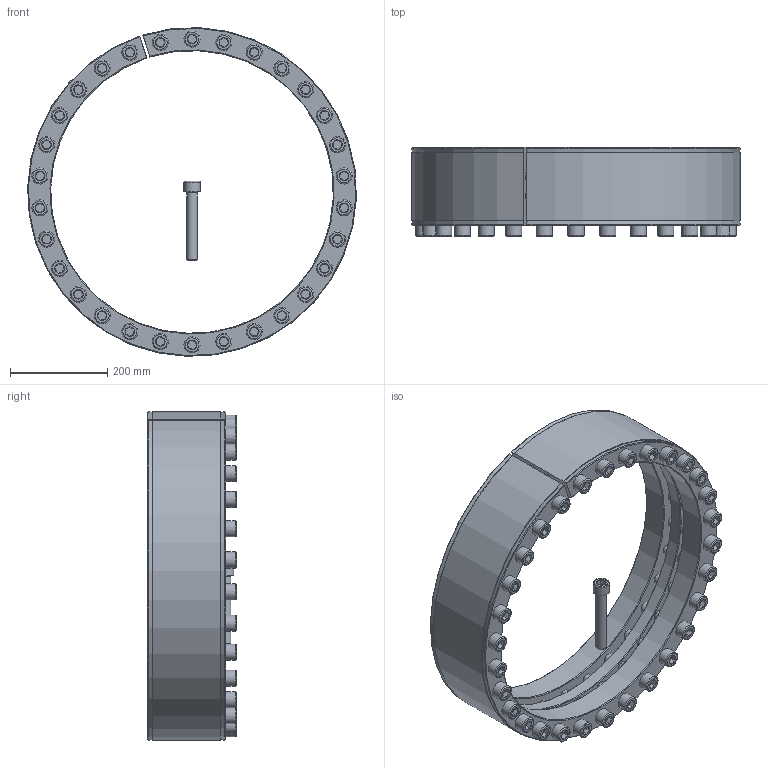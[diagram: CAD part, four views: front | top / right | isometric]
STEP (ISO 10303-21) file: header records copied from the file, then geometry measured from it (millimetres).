
FILE_DESCRIPTION( ( 'Unknown' ), '1' );
FILE_NAME( 'C:/Users/Frank/Eigene Daten/CAD/Solid Edge/KBK Karpstein/KBS Layout Baureihen/KBS 18/KBS 18 - 580 x 675.stp', 'Unknown', ( 'Unknown' ), ( 'Unknown' ), 'XStep 1.0', 'Unknown', ' ' );
FILE_SCHEMA( ( 'automotive_design' ) );
Length unit declared in the file: millimetre
Products named in the file (3): Assem1; ISO EN DIN 4762 M22x140; KBS 18 - 580 x 675
Bounding box: 674.61 x 182 x 674.48 mm (x, y, z)
Volume: 24094127.3 mm3; surface area: 3034764.6 mm2
Topology: 33 solids, 33 shells, 1007 faces, 2089 edges, 1272 vertices
Faces by surface type: plane 392, cylinder 312, cone 241, torus 62
Full cylindrical faces by diameter (mm): 18 x31, 19.294 x60, 22 x62, 24 x120, 33 x31
Entity records: 5670 total; most frequent: CARTESIAN_POINT 853, DIRECTION 824, ORIENTED_EDGE 574, EDGE_LOOP 422, AXIS2_PLACEMENT_3D 394, EDGE_CURVE 287, VERTEX_POINT 251, FACE_OUTER_BOUND 237
